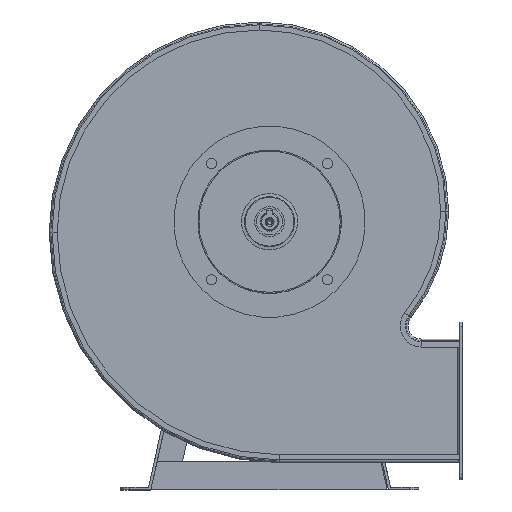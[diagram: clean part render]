
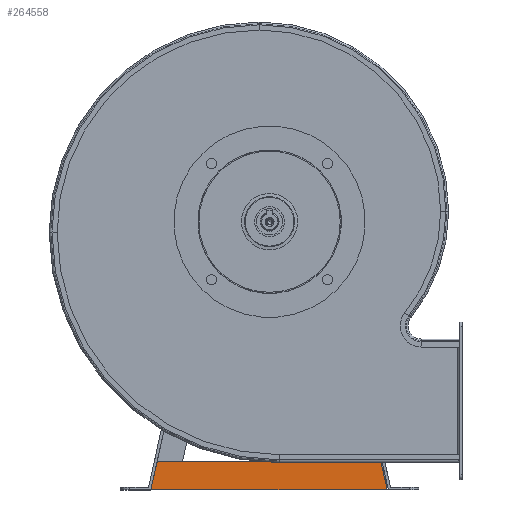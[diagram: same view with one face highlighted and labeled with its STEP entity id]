
A CAD part, left-side view. The second image highlights one B-rep face of the part: STEP entity #264558.
In plain terms, the highlighted planar face has unit normal (-1, 0, 0).
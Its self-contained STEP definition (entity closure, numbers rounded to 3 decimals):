
#264204 = PLANE('',#264205);
#264205 = AXIS2_PLACEMENT_3D('',#264206,#264207,#264208);
#264206 = CARTESIAN_POINT('',(0.,30.,-245.074));
#264207 = DIRECTION('',(0.,0.225,-0.974));
#264208 = DIRECTION('',(-1.,0.,0.));
#264229 = VERTEX_POINT('',#264230);
#264230 = CARTESIAN_POINT('',(0.,0.,-252.));
#264244 = PLANE('',#264245);
#264245 = AXIS2_PLACEMENT_3D('',#264246,#264247,#264248);
#264246 = CARTESIAN_POINT('',(30.,0.,0.));
#264247 = DIRECTION('',(0.,1.,0.));
#264248 = DIRECTION('',(0.,-0.,1.));
#264256 = EDGE_CURVE('',#264229,#264257,#264259,.T.);
#264257 = VERTEX_POINT('',#264258);
#264258 = CARTESIAN_POINT('',(0.,30.,-245.074));
#264259 = SURFACE_CURVE('',#264260,(#264264,#264271),.PCURVE_S1.);
#264260 = LINE('',#264261,#264262);
#264261 = CARTESIAN_POINT('',(0.,0.,-252.));
#264262 = VECTOR('',#264263,1.);
#264263 = DIRECTION('',(0.,0.974,0.225));
#264264 = PCURVE('',#264204,#264265);
#264265 = DEFINITIONAL_REPRESENTATION('',(#264266),#264270);
#264266 = LINE('',#264267,#264268);
#264267 = CARTESIAN_POINT('',(0.,-30.789));
#264268 = VECTOR('',#264269,1.);
#264269 = DIRECTION('',(0.,1.));
#264270 = ( GEOMETRIC_REPRESENTATION_CONTEXT(2) 
PARAMETRIC_REPRESENTATION_CONTEXT() REPRESENTATION_CONTEXT('2D SPACE',''
  ) );
#264271 = PCURVE('',#264272,#264277);
#264272 = PLANE('',#264273);
#264273 = AXIS2_PLACEMENT_3D('',#264274,#264275,#264276);
#264274 = CARTESIAN_POINT('',(0.,0.,0.));
#264275 = DIRECTION('',(1.,0.,0.));
#264276 = DIRECTION('',(0.,0.,-1.));
#264277 = DEFINITIONAL_REPRESENTATION('',(#264278),#264282);
#264278 = LINE('',#264279,#264280);
#264279 = CARTESIAN_POINT('',(252.,0.));
#264280 = VECTOR('',#264281,1.);
#264281 = DIRECTION('',(-0.225,0.974));
#264282 = ( GEOMETRIC_REPRESENTATION_CONTEXT(2) 
PARAMETRIC_REPRESENTATION_CONTEXT() REPRESENTATION_CONTEXT('2D SPACE',''
  ) );
#264300 = PLANE('',#264301);
#264301 = AXIS2_PLACEMENT_3D('',#264302,#264303,#264304);
#264302 = CARTESIAN_POINT('',(0.,30.,0.));
#264303 = DIRECTION('',(0.,-1.,0.));
#264304 = DIRECTION('',(0.,0.,-1.));
#264380 = PLANE('',#264381);
#264381 = AXIS2_PLACEMENT_3D('',#264382,#264383,#264384);
#264382 = CARTESIAN_POINT('',(0.,0.,0.));
#264383 = DIRECTION('',(0.,0.225,0.974));
#264384 = DIRECTION('',(1.,0.,0.));
#264446 = VERTEX_POINT('',#264447);
#264447 = CARTESIAN_POINT('',(0.,30.,-6.926));
#264468 = EDGE_CURVE('',#264446,#264469,#264471,.T.);
#264469 = VERTEX_POINT('',#264470);
#264470 = CARTESIAN_POINT('',(0.,0.,0.));
#264471 = SURFACE_CURVE('',#264472,(#264476,#264483),.PCURVE_S1.);
#264472 = LINE('',#264473,#264474);
#264473 = CARTESIAN_POINT('',(0.,30.,-6.926));
#264474 = VECTOR('',#264475,1.);
#264475 = DIRECTION('',(0.,-0.974,0.225));
#264476 = PCURVE('',#264380,#264477);
#264477 = DEFINITIONAL_REPRESENTATION('',(#264478),#264482);
#264478 = LINE('',#264479,#264480);
#264479 = CARTESIAN_POINT('',(0.,30.789));
#264480 = VECTOR('',#264481,1.);
#264481 = DIRECTION('',(0.,-1.));
#264482 = ( GEOMETRIC_REPRESENTATION_CONTEXT(2) 
PARAMETRIC_REPRESENTATION_CONTEXT() REPRESENTATION_CONTEXT('2D SPACE',''
  ) );
#264483 = PCURVE('',#264272,#264484);
#264484 = DEFINITIONAL_REPRESENTATION('',(#264485),#264489);
#264485 = LINE('',#264486,#264487);
#264486 = CARTESIAN_POINT('',(6.926,30.));
#264487 = VECTOR('',#264488,1.);
#264488 = DIRECTION('',(-0.225,-0.974));
#264489 = ( GEOMETRIC_REPRESENTATION_CONTEXT(2) 
PARAMETRIC_REPRESENTATION_CONTEXT() REPRESENTATION_CONTEXT('2D SPACE',''
  ) );
#264516 = EDGE_CURVE('',#264446,#264257,#264517,.T.);
#264517 = SURFACE_CURVE('',#264518,(#264522,#264529),.PCURVE_S1.);
#264518 = LINE('',#264519,#264520);
#264519 = CARTESIAN_POINT('',(0.,30.,-6.926));
#264520 = VECTOR('',#264521,1.);
#264521 = DIRECTION('',(0.,0.,-1.));
#264522 = PCURVE('',#264300,#264523);
#264523 = DEFINITIONAL_REPRESENTATION('',(#264524),#264528);
#264524 = LINE('',#264525,#264526);
#264525 = CARTESIAN_POINT('',(6.926,0.));
#264526 = VECTOR('',#264527,1.);
#264527 = DIRECTION('',(1.,0.));
#264528 = ( GEOMETRIC_REPRESENTATION_CONTEXT(2) 
PARAMETRIC_REPRESENTATION_CONTEXT() REPRESENTATION_CONTEXT('2D SPACE',''
  ) );
#264529 = PCURVE('',#264272,#264530);
#264530 = DEFINITIONAL_REPRESENTATION('',(#264531),#264535);
#264531 = LINE('',#264532,#264533);
#264532 = CARTESIAN_POINT('',(6.926,30.));
#264533 = VECTOR('',#264534,1.);
#264534 = DIRECTION('',(1.,0.));
#264535 = ( GEOMETRIC_REPRESENTATION_CONTEXT(2) 
PARAMETRIC_REPRESENTATION_CONTEXT() REPRESENTATION_CONTEXT('2D SPACE',''
  ) );
#264558 = ADVANCED_FACE('',(#264559),#264272,.F.);
#264559 = FACE_BOUND('',#264560,.T.);
#264560 = EDGE_LOOP('',(#264561,#264562,#264583,#264584));
#264561 = ORIENTED_EDGE('',*,*,#264256,.F.);
#264562 = ORIENTED_EDGE('',*,*,#264563,.F.);
#264563 = EDGE_CURVE('',#264469,#264229,#264564,.T.);
#264564 = SURFACE_CURVE('',#264565,(#264569,#264576),.PCURVE_S1.);
#264565 = LINE('',#264566,#264567);
#264566 = CARTESIAN_POINT('',(0.,0.,0.));
#264567 = VECTOR('',#264568,1.);
#264568 = DIRECTION('',(0.,0.,-1.));
#264569 = PCURVE('',#264272,#264570);
#264570 = DEFINITIONAL_REPRESENTATION('',(#264571),#264575);
#264571 = LINE('',#264572,#264573);
#264572 = CARTESIAN_POINT('',(0.,0.));
#264573 = VECTOR('',#264574,1.);
#264574 = DIRECTION('',(1.,0.));
#264575 = ( GEOMETRIC_REPRESENTATION_CONTEXT(2) 
PARAMETRIC_REPRESENTATION_CONTEXT() REPRESENTATION_CONTEXT('2D SPACE',''
  ) );
#264576 = PCURVE('',#264244,#264577);
#264577 = DEFINITIONAL_REPRESENTATION('',(#264578),#264582);
#264578 = LINE('',#264579,#264580);
#264579 = CARTESIAN_POINT('',(0.,-30.));
#264580 = VECTOR('',#264581,1.);
#264581 = DIRECTION('',(-1.,0.));
#264582 = ( GEOMETRIC_REPRESENTATION_CONTEXT(2) 
PARAMETRIC_REPRESENTATION_CONTEXT() REPRESENTATION_CONTEXT('2D SPACE',''
  ) );
#264583 = ORIENTED_EDGE('',*,*,#264468,.F.);
#264584 = ORIENTED_EDGE('',*,*,#264516,.T.);
